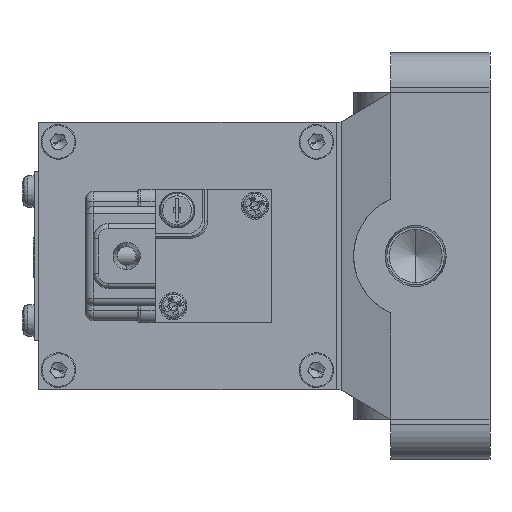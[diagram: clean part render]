
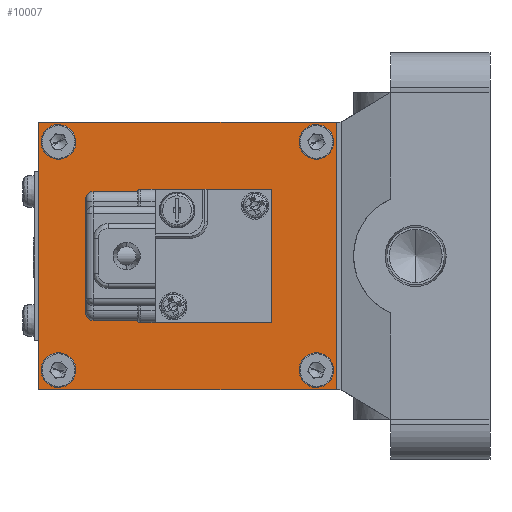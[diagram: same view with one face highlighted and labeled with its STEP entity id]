
A CAD part, left-side view. The second image highlights one B-rep face of the part: STEP entity #10007.
In plain terms, the highlighted planar face has unit normal (-1, 0, 0) as drawn and (1, 0, 0) by its records, which use the part's own axes.
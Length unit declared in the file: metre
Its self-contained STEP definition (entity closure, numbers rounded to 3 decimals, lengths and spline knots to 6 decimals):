
#696 = PLANE ( 'NONE',  #4579 ) ;
#1334 = AXIS2_PLACEMENT_3D ( 'NONE', #1793, #11388, #3170 ) ;
#1355 = CARTESIAN_POINT ( 'NONE',  ( 0.051, 0.091, -0.027 ) ) ;
#1457 = CARTESIAN_POINT ( 'NONE',  ( 0.051, 0.087, 0.025 ) ) ;
#1639 = CARTESIAN_POINT ( 'NONE',  ( 0.051, 0.035, 0.025 ) ) ;
#1720 = VERTEX_POINT ( 'NONE', #16673 ) ;
#1777 = FACE_BOUND ( 'NONE', #14018, .T. ) ;
#1793 = CARTESIAN_POINT ( 'NONE',  ( 0.051, 0.087, 0.023 ) ) ;
#2065 = VERTEX_POINT ( 'NONE', #3403 ) ;
#2335 = CIRCLE ( 'NONE', #11597, 0.002 ) ;
#2351 = LINE ( 'NONE', #9555, #13290 ) ;
#2586 = VERTEX_POINT ( 'NONE', #1355 ) ;
#2800 = ORIENTED_EDGE ( 'NONE', *, *, #12439, .T. ) ;
#2826 = EDGE_CURVE ( 'NONE', #11619, #10805, #3345, .T. ) ;
#3040 = CARTESIAN_POINT ( 'NONE',  ( 0.051, 0.091, 0.027 ) ) ;
#3131 = AXIS2_PLACEMENT_3D ( 'NONE', #8467, #8530, #8672 ) ;
#3165 = AXIS2_PLACEMENT_3D ( 'NONE', #14810, #6600, #16191 ) ;
#3170 = DIRECTION ( 'NONE',  ( 0., 0., -1. ) ) ;
#3184 = VECTOR ( 'NONE', #4888, 1. ) ;
#3345 = CIRCLE ( 'NONE', #3131, 0.002 ) ;
#3403 = CARTESIAN_POINT ( 'NONE',  ( 0.051, 0.031, 0.027 ) ) ;
#3921 = EDGE_CURVE ( 'NONE', #5664, #15520, #14506, .T. ) ;
#3950 = ORIENTED_EDGE ( 'NONE', *, *, #15302, .T. ) ;
#4264 = ORIENTED_EDGE ( 'NONE', *, *, #5209, .T. ) ;
#4314 = CARTESIAN_POINT ( 'NONE',  ( 0.051, 0.035, -0.023 ) ) ;
#4376 = EDGE_CURVE ( 'NONE', #2586, #15144, #15780, .T. ) ;
#4393 = DIRECTION ( 'NONE',  ( -1., 0., 0. ) ) ;
#4420 = CIRCLE ( 'NONE', #3165, 0.002 ) ;
#4579 = AXIS2_PLACEMENT_3D ( 'NONE', #13025, #4845, #14425 ) ;
#4845 = DIRECTION ( 'NONE',  ( 1., 0., 0. ) ) ;
#4888 = DIRECTION ( 'NONE',  ( 0., 1., 0. ) ) ;
#5025 = EDGE_LOOP ( 'NONE', ( #17536, #3950 ) ) ;
#5209 = EDGE_CURVE ( 'NONE', #9672, #12488, #17264, .T. ) ;
#5357 = ORIENTED_EDGE ( 'NONE', *, *, #12837, .T. ) ;
#5442 = FACE_BOUND ( 'NONE', #5025, .T. ) ;
#5664 = VERTEX_POINT ( 'NONE', #6711 ) ;
#5689 = DIRECTION ( 'NONE',  ( 0., 0., -1. ) ) ;
#5727 = ORIENTED_EDGE ( 'NONE', *, *, #12395, .F. ) ;
#5869 = EDGE_LOOP ( 'NONE', ( #5727, #14602 ) ) ;
#6452 = CARTESIAN_POINT ( 'NONE',  ( 0.051, 0.087, 0.023 ) ) ;
#6548 = EDGE_CURVE ( 'NONE', #2065, #1720, #15079, .T. ) ;
#6600 = DIRECTION ( 'NONE',  ( -1., 0., 0. ) ) ;
#6711 = CARTESIAN_POINT ( 'NONE',  ( 0.051, 0.035, -0.025 ) ) ;
#6748 = ORIENTED_EDGE ( 'NONE', *, *, #12906, .T. ) ;
#7232 = DIRECTION ( 'NONE',  ( 0., 0., -1. ) ) ;
#7375 = CARTESIAN_POINT ( 'NONE',  ( 0.051, 0.035, 0.023 ) ) ;
#7447 = VERTEX_POINT ( 'NONE', #8346 ) ;
#7775 = VECTOR ( 'NONE', #7232, 1. ) ;
#7814 = DIRECTION ( 'NONE',  ( 0., 0., -1. ) ) ;
#8118 = DIRECTION ( 'NONE',  ( 1., 0., 0. ) ) ;
#8181 = CARTESIAN_POINT ( 'NONE',  ( 0.051, 0.087, -0.021 ) ) ;
#8346 = CARTESIAN_POINT ( 'NONE',  ( 0.051, 0.035, 0.021 ) ) ;
#8467 = CARTESIAN_POINT ( 'NONE',  ( 0.051, 0.087, -0.023 ) ) ;
#8530 = DIRECTION ( 'NONE',  ( 1., 0., 0. ) ) ;
#8559 = ORIENTED_EDGE ( 'NONE', *, *, #13441, .T. ) ;
#8672 = DIRECTION ( 'NONE',  ( 0., 0., -1. ) ) ;
#8744 = DIRECTION ( 'NONE',  ( 0., 0., -1. ) ) ;
#8930 = CARTESIAN_POINT ( 'NONE',  ( 0.051, 0.061, -0.027 ) ) ;
#9477 = AXIS2_PLACEMENT_3D ( 'NONE', #4314, #13894, #5689 ) ;
#9507 = FACE_BOUND ( 'NONE', #11426, .T. ) ;
#9555 = CARTESIAN_POINT ( 'NONE',  ( 0.051, 0.061, 0.027 ) ) ;
#9672 = VERTEX_POINT ( 'NONE', #1457 ) ;
#9933 = CARTESIAN_POINT ( 'NONE',  ( 0.051, 0.031, 0. ) ) ;
#10007 = ADVANCED_FACE ( 'NONE', ( #1777, #5442, #9507, #15943, #12272 ), #696, .T. ) ;
#10068 = CIRCLE ( 'NONE', #10467, 0.002 ) ;
#10353 = AXIS2_PLACEMENT_3D ( 'NONE', #12582, #4393, #13979 ) ;
#10467 = AXIS2_PLACEMENT_3D ( 'NONE', #16346, #8118, #17726 ) ;
#10619 = CARTESIAN_POINT ( 'NONE',  ( 0.051, 0.035, -0.021 ) ) ;
#10697 = ORIENTED_EDGE ( 'NONE', *, *, #6548, .T. ) ;
#10710 = CIRCLE ( 'NONE', #10353, 0.002 ) ;
#10805 = VERTEX_POINT ( 'NONE', #15833 ) ;
#10921 = LINE ( 'NONE', #8930, #3184 ) ;
#10932 = DIRECTION ( 'NONE',  ( 0., -1., 0. ) ) ;
#11012 = EDGE_LOOP ( 'NONE', ( #10697, #5357, #16790, #2800 ) ) ;
#11388 = DIRECTION ( 'NONE',  ( -1., 0., 0. ) ) ;
#11426 = EDGE_LOOP ( 'NONE', ( #6748, #4264 ) ) ;
#11597 = AXIS2_PLACEMENT_3D ( 'NONE', #6452, #16037, #7814 ) ;
#11619 = VERTEX_POINT ( 'NONE', #8181 ) ;
#12108 = VECTOR ( 'NONE', #12362, 1. ) ;
#12272 = FACE_OUTER_BOUND ( 'NONE', #11012, .T. ) ;
#12362 = DIRECTION ( 'NONE',  ( 0., 0., 1. ) ) ;
#12395 = EDGE_CURVE ( 'NONE', #10805, #11619, #10068, .T. ) ;
#12439 = EDGE_CURVE ( 'NONE', #15144, #2065, #2351, .T. ) ;
#12488 = VERTEX_POINT ( 'NONE', #16396 ) ;
#12582 = CARTESIAN_POINT ( 'NONE',  ( 0.051, 0.035, 0.023 ) ) ;
#12837 = EDGE_CURVE ( 'NONE', #1720, #2586, #10921, .T. ) ;
#12906 = EDGE_CURVE ( 'NONE', #12488, #9672, #2335, .T. ) ;
#13025 = CARTESIAN_POINT ( 'NONE',  ( 0.051, 0.031, 0.027 ) ) ;
#13253 = EDGE_CURVE ( 'NONE', #13305, #7447, #10710, .T. ) ;
#13290 = VECTOR ( 'NONE', #10932, 1. ) ;
#13305 = VERTEX_POINT ( 'NONE', #1639 ) ;
#13441 = EDGE_CURVE ( 'NONE', #7447, #13305, #15843, .T. ) ;
#13894 = DIRECTION ( 'NONE',  ( -1., 0., 0. ) ) ;
#13979 = DIRECTION ( 'NONE',  ( 0., 0., -1. ) ) ;
#14018 = EDGE_LOOP ( 'NONE', ( #8559, #16601 ) ) ;
#14425 = DIRECTION ( 'NONE',  ( 0., 0., -1. ) ) ;
#14506 = CIRCLE ( 'NONE', #9477, 0.002 ) ;
#14602 = ORIENTED_EDGE ( 'NONE', *, *, #2826, .F. ) ;
#14810 = CARTESIAN_POINT ( 'NONE',  ( 0.051, 0.035, -0.023 ) ) ;
#15079 = LINE ( 'NONE', #9933, #7775 ) ;
#15144 = VERTEX_POINT ( 'NONE', #3040 ) ;
#15302 = EDGE_CURVE ( 'NONE', #15520, #5664, #4420, .T. ) ;
#15520 = VERTEX_POINT ( 'NONE', #10619 ) ;
#15780 = LINE ( 'NONE', #16531, #12108 ) ;
#15833 = CARTESIAN_POINT ( 'NONE',  ( 0.051, 0.087, -0.025 ) ) ;
#15843 = CIRCLE ( 'NONE', #16786, 0.002 ) ;
#15943 = FACE_BOUND ( 'NONE', #5869, .T. ) ;
#16037 = DIRECTION ( 'NONE',  ( -1., 0., 0. ) ) ;
#16191 = DIRECTION ( 'NONE',  ( 0., 0., -1. ) ) ;
#16346 = CARTESIAN_POINT ( 'NONE',  ( 0.051, 0.087, -0.023 ) ) ;
#16396 = CARTESIAN_POINT ( 'NONE',  ( 0.051, 0.087, 0.021 ) ) ;
#16531 = CARTESIAN_POINT ( 'NONE',  ( 0.051, 0.091, 0. ) ) ;
#16601 = ORIENTED_EDGE ( 'NONE', *, *, #13253, .T. ) ;
#16673 = CARTESIAN_POINT ( 'NONE',  ( 0.051, 0.031, -0.027 ) ) ;
#16786 = AXIS2_PLACEMENT_3D ( 'NONE', #7375, #16979, #8744 ) ;
#16790 = ORIENTED_EDGE ( 'NONE', *, *, #4376, .T. ) ;
#16979 = DIRECTION ( 'NONE',  ( -1., 0., 0. ) ) ;
#17264 = CIRCLE ( 'NONE', #1334, 0.002 ) ;
#17536 = ORIENTED_EDGE ( 'NONE', *, *, #3921, .T. ) ;
#17726 = DIRECTION ( 'NONE',  ( 0., 0., -1. ) ) ;
